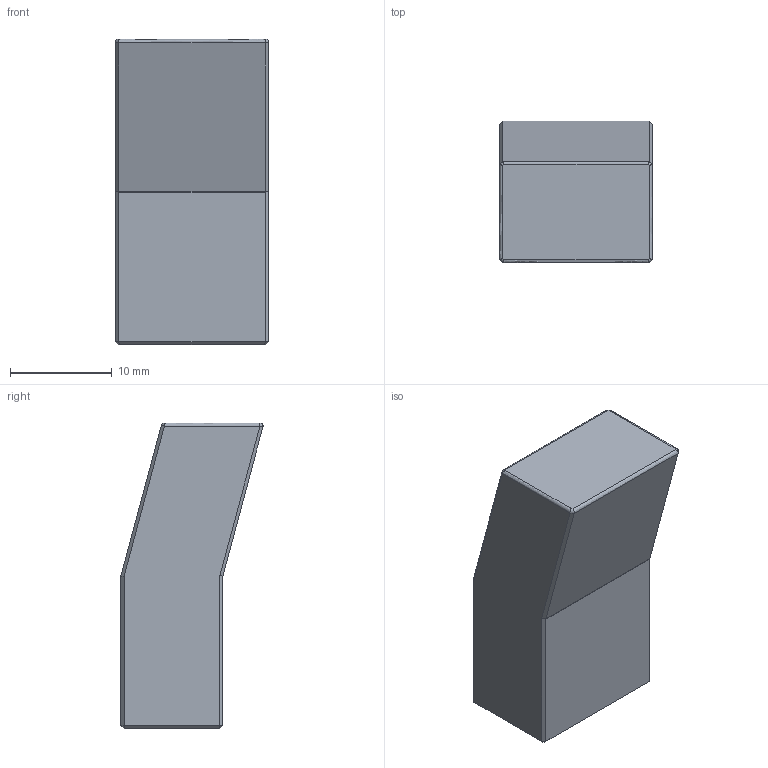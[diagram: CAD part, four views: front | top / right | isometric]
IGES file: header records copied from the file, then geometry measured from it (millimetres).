
Global section: file name: E:\UnigraphicsGraphicData\MISUMI_MOLD-PARTS\NX\3d_ance10_b15_l30_k15_00919_r00.igs; native system: NX V5.0; preprocessor: UGS NX IGES V5.0; author: MISUMI; date: 20101115.182445; units: millimetre
Bounding box: 15 x 13.93 x 30 mm (x, y, z)
Surface area: 2022.3 mm2 (no closed solid volume)
Topology: 0 solids, 0 shells, 37 faces, 207 edges, 206 vertices
Faces by surface type: bspline 37
